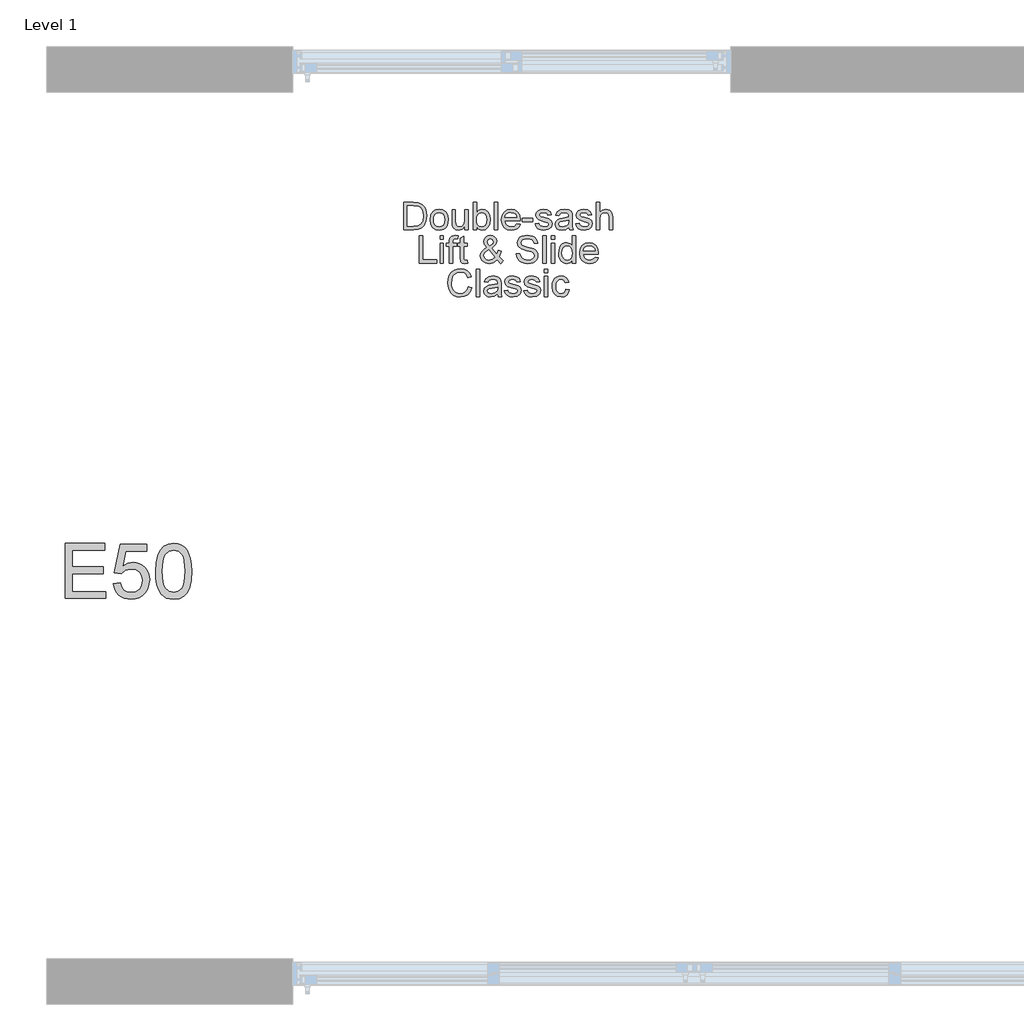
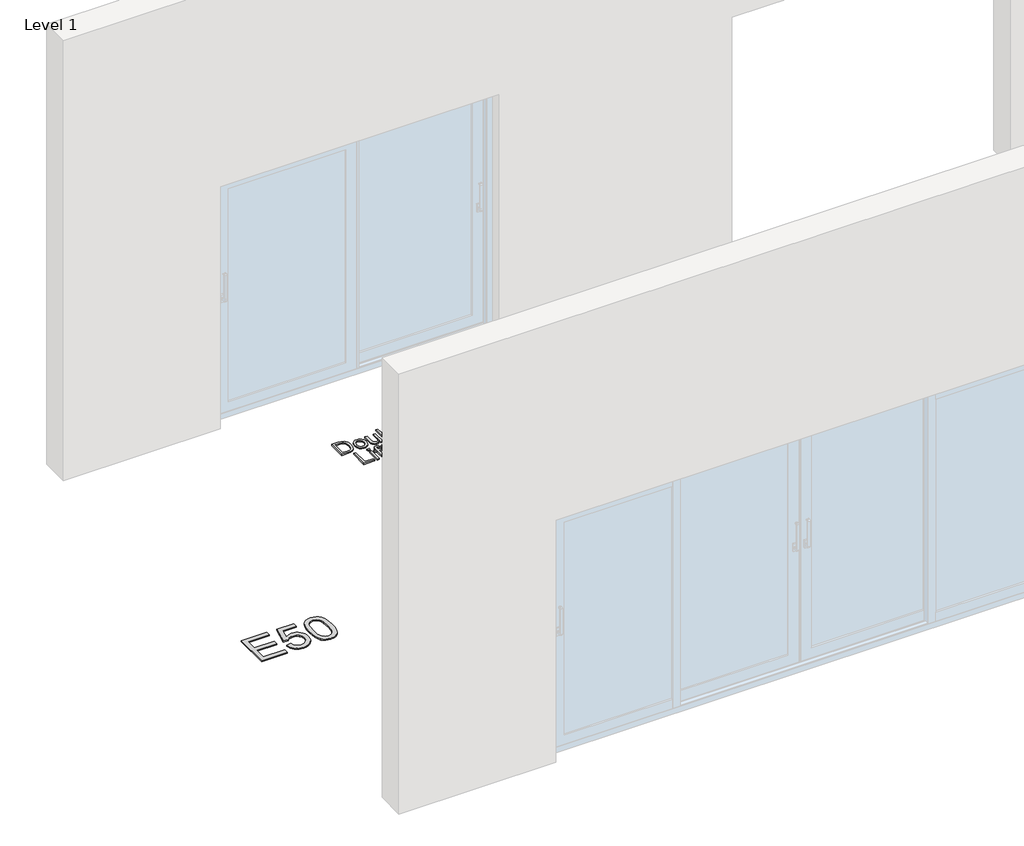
# One storey, part 3 of 17: 2 proxies.
"""IFC4 building model written with IfcOpenShell, lengths in millimetres."""

from ifc_helpers import new_model, si_unit, origin, origin_with_axes, place, context, project, spatial, polyline, outline, extrude, element, save

model = new_model("IFC4")

# Units and contexts
model_context = context("Model", 3, world=origin())
ifc_project = project(units=[si_unit("LENGTHUNIT", "METRE", prefix="MILLI")], contexts=[model_context])

# Site, building, storey
site = spatial("IfcSite", under=ifc_project)
building = spatial("IfcBuilding", under=site)
storey = spatial("IfcBuildingStorey", under=building, Name="Level 1", Elevation=0.0)

# Proxies
placement = place(None, origin())
element("IfcBuildingElementProxy", 1, Name="150mm Arial", ObjectType="150mm Arial", at=placement, inside=storey, context=model_context, shape_type="SweptSolid", body=[
    extrude(outline(polyline([(-6211.5990485, -897.6627533), (-6211.5990485, -746.9782881), (-6159.6173226, -746.9782881), (-6132.7251487, -749.1487919), (-6110.5786526, -759.9277343), (-6100.1583951, -771.4056526), (-6092.7363758, -785.679474), (-6088.2942007, -802.4732871), (-6086.8134757, -821.5111803), (-6090.8233895, -851.9166272), (-6101.1240853, -873.8607883), (-6114.8828719, -887.5276044), (-6132.8906956, -895.0875794), (-6157.115725, -897.6627533), (-6211.5990485, -897.6627533)]), holes=[polyline([(-6192.7634903, -878.8271952), (-6159.4333816, -878.8271952), (-6135.1899581, -876.1048684), (-6121.2104423, -868.4161347), (-6109.7509181, -849.7093353), (-6105.6490339, -821.2168747), (-6107.6585893, -800.6890594), (-6113.6872555, -785.5323212), (-6122.5945983, -775.1212607), (-6133.2401835, -768.8304786), (-6159.9484164, -765.8138463), (-6192.7634903, -765.8138463), (-6192.7634903, -878.8271952)])]), origin_with_axes(), (0.0, 0.0, 1.0), 10.0),
    extrude(outline(polyline([(-6067.9779176, -842.3333013), (-6063.9036245, -815.6526596), (-6051.6807452, -796.8998749), (-6036.5791893, -787.712022), (-6018.4977892, -784.6494044), (-5998.7103364, -788.3788081), (-5982.9052062, -799.5670193), (-5972.5447295, -817.3311212), (-5969.0912373, -840.7881969), (-5970.6179475, -859.8168931), (-5975.1980784, -874.3022466), (-5982.6982726, -885.150167), (-5992.9851728, -893.2665635), (-6005.2034536, -898.3295395), (-6018.4977892, -900.0171981), (-6038.5243653, -896.30159), (-6054.3111014, -885.1547655), (-6064.5612135, -867.0181831), (-6067.9779176, -842.3333013)]), holes=[polyline([(-6049.1423594, -842.2965131), (-6046.9626586, -859.343245), (-6040.4235561, -871.4879494), (-6030.5827127, -878.7582173), (-6018.4977892, -881.18164), (-6006.468048, -878.7444217), (-5996.6455987, -871.4327671), (-5990.1064962, -859.1271143), (-5987.9267954, -841.7079019), (-5990.1202918, -825.1578106), (-5996.700781, -813.1786531), (-6006.5370258, -805.9083852), (-6018.4977892, -803.4849626), (-6030.5827127, -805.8991882), (-6040.4235561, -813.141865), (-6046.9626586, -825.2589782), (-6049.1423594, -842.2965131)])]), origin_with_axes(), (0.0, 0.0, 1.0), 10.0),
    extrude(outline(polyline([(-5877.2678913, -897.6627533), (-5877.2678913, -878.6432542), (-5892.0199593, -894.6737121), (-5911.2601876, -900.0171981), (-5928.9737057, -896.2648018), (-5941.1873879, -886.8470227), (-5946.7975883, -872.9778715), (-5947.9012343, -855.4666885), (-5947.9012343, -787.0038492), (-5929.0656762, -787.0038492), (-5929.0656762, -846.6007324), (-5927.925242, -865.8041726), (-5920.4756316, -877.0797557), (-5906.4409335, -881.18164), (-5890.7139782, -876.9877852), (-5880.3213118, -865.5650493), (-5877.2678913, -844.5773814), (-5877.2678913, -787.0038492), (-5858.4323331, -787.0038492), (-5858.4323331, -897.6627533), (-5877.2678913, -897.6627533)])), origin_with_axes(), (0.0, 0.0, 1.0), 10.0),
    extrude(outline(polyline([(-5813.6978825, -897.6627533), (-5832.5334406, -897.6627533), (-5832.5334406, -746.9782881), (-5813.6978825, -746.9782881), (-5813.6978825, -802.8595632), (-5800.509313, -789.2019441), (-5784.1201701, -784.6494044), (-5765.2478237, -788.7512887), (-5750.6061203, -800.2843892), (-5741.6114055, -818.2186365), (-5738.3556499, -840.6778323), (-5741.7263687, -865.8225667), (-5751.838525, -884.5293661), (-5766.677965, -896.1452401), (-5784.2305347, -900.0171981), (-5800.9783625, -895.0232), (-5813.6978825, -880.0412058), (-5813.6978825, -897.6627533)]), holes=[polyline([(-5813.6978825, -841.5607491), (-5812.4102955, -857.2693103), (-5808.5475346, -867.9010999), (-5798.6791, -877.861505), (-5785.8492155, -881.18164), (-5774.9783025, -878.7352247), (-5765.6892821, -871.3959789), (-5759.3157266, -859.2098878), (-5757.191208, -842.2229367), (-5759.2283546, -824.9876652), (-5765.3397942, -812.9395299), (-5774.3391075, -805.8486044), (-5785.0398751, -803.4849626), (-5795.910788, -805.9313778), (-5805.1998084, -813.2706236), (-5811.573364, -825.2359855), (-5813.6978825, -841.5607491)])]), origin_with_axes(), (0.0, 0.0, 1.0), 10.0),
    extrude(outline(polyline([(-5717.165647, -897.6627533), (-5717.165647, -746.9782881), (-5698.3300888, -746.9782881), (-5698.3300888, -897.6627533), (-5717.165647, -897.6627533)])), origin_with_axes(), (0.0, 0.0, 1.0), 10.0),
    extrude(outline(polyline([(-5592.6008034, -864.7005266), (-5574.1331272, -867.0549713), (-5580.7871928, -880.9701078), (-5591.4051869, -891.3719712), (-5605.7479862, -897.8558914), (-5623.5764674, -900.0171981), (-5645.6769782, -896.2877944), (-5662.6823235, -885.0995832), (-5673.5256453, -867.1791315), (-5677.1400859, -843.2530063), (-5673.4888571, -818.5221391), (-5662.5351707, -800.0268718), (-5645.7597517, -788.4937713), (-5624.6433252, -784.6494044), (-5604.1844877, -788.4845742), (-5587.8367316, -799.9900836), (-5577.1175699, -818.4485627), (-5573.544516, -843.1426417), (-5573.6548806, -848.2194132), (-5658.3045277, -848.2194132), (-5655.0441735, -862.3184907), (-5647.470403, -872.6835659), (-5636.5397092, -879.0571214), (-5623.2085854, -881.18164), (-5604.7409092, -877.2453026), (-5592.6008034, -864.7005266)]), holes=[polyline([(-5658.3045277, -829.383855), (-5592.3800742, -829.383855), (-5594.927657, -819.4326471), (-5599.9216551, -812.3141305), (-5610.9029326, -805.6922545), (-5624.7169016, -803.4849626), (-5637.4134289, -805.2461976), (-5647.9118614, -810.5299028), (-5655.2097204, -818.765861), (-5658.3045277, -829.383855)])]), origin_with_axes(), (0.0, 0.0, 1.0), 10.0),
    extrude(outline(polyline([(-5564.126737, -852.9283027), (-5564.126737, -834.0927446), (-5505.2656177, -834.0927446), (-5505.2656177, -852.9283027), (-5564.126737, -852.9283027)])), origin_with_axes(), (0.0, 0.0, 1.0), 10.0),
    extrude(outline(polyline([(-5491.1389491, -864.7005266), (-5472.303391, -862.3460818), (-5469.3327439, -870.4026975), (-5463.5845877, -876.3255976), (-5443.6085953, -881.18164), (-5424.4051552, -876.7302678), (-5418.1511613, -866.2824192), (-5419.7238568, -861.4815591), (-5424.4419434, -857.8211333), (-5443.8293245, -852.4500561), (-5472.1930264, -843.2346122), (-5484.5722555, -832.4740638), (-5488.7845044, -817.2805374), (-5485.39999, -803.2458393), (-5476.1661519, -792.5220791), (-5464.191593, -786.9486669), (-5447.9863911, -784.6494044), (-5425.0673428, -788.3466185), (-5410.4992158, -798.3530087), (-5404.0244927, -815.2571864), (-5422.8600508, -817.6116312), (-5429.9417792, -807.2189648), (-5446.5148631, -803.4849626), (-5464.5410809, -807.0534179), (-5469.9489462, -815.367551), (-5467.704866, -820.8489927), (-5460.6783199, -825.0060593), (-5444.4547239, -829.015973), (-5416.808392, -837.8819291), (-5403.9693104, -847.9251076), (-5399.3156031, -864.2958564), (-5404.7786508, -882.3220741), (-5420.5423942, -895.4002791), (-5443.8661127, -900.0171981), (-5462.8580207, -897.791512), (-5476.7179749, -891.1144538), (-5485.9702071, -880.0595999), (-5491.1389491, -864.7005266)])), origin_with_axes(), (0.0, 0.0, 1.0), 10.0),
    extrude(outline(polyline([(-5307.4922571, -883.5360847), (-5325.7575982, -896.30159), (-5345.9359256, -900.0171981), (-5361.6766765, -897.782315), (-5373.287952, -891.0776656), (-5380.4478553, -880.8965314), (-5382.8344897, -868.2321937), (-5379.2292462, -853.3329729), (-5369.7562848, -842.5172423), (-5356.5677153, -836.3368247), (-5340.2705429, -833.5041334), (-5307.6026217, -827.0294103), (-5307.4922571, -822.8355555), (-5308.7890412, -814.4294519), (-5312.6793933, -808.9296161), (-5321.3798024, -804.846126), (-5333.5015142, -803.4849626), (-5352.5578015, -807.1086002), (-5361.6444868, -819.966076), (-5380.480045, -817.6116312), (-5372.3314588, -799.2175314), (-5355.9239218, -788.438589), (-5331.073493, -784.6494044), (-5308.2464152, -787.9971306), (-5295.3521513, -796.4032342), (-5289.576404, -809.1871335), (-5288.656699, -825.6682469), (-5288.656699, -849.10233), (-5287.7002058, -881.8254334), (-5283.9478094, -897.6627533), (-5302.7833676, -897.6627533), (-5307.4922571, -883.5360847)]), holes=[polyline([(-5307.4922571, -845.8649684), (-5337.8793099, -851.6407157), (-5354.0845118, -854.6941363), (-5361.4237576, -859.6605432), (-5363.9989316, -866.9078185), (-5358.3887312, -877.0981498), (-5341.9260119, -881.18164), (-5322.8697245, -876.6750855), (-5310.5824659, -865.7673844), (-5307.6026217, -851.1992574), (-5307.4922571, -845.8649684)])]), origin_with_axes(), (0.0, 0.0, 1.0), 10.0),
    extrude(outline(polyline([(-5269.8211408, -864.7005266), (-5250.9855827, -862.3460818), (-5248.0149356, -870.4026975), (-5242.2667794, -876.3255976), (-5222.290787, -881.18164), (-5203.0873469, -876.7302678), (-5196.833353, -866.2824192), (-5198.4060485, -861.4815591), (-5203.1241351, -857.8211333), (-5222.5115162, -852.4500561), (-5250.8752181, -843.2346122), (-5263.2544472, -832.4740638), (-5267.4666961, -817.2805374), (-5264.0821817, -803.2458393), (-5254.8483436, -792.5220791), (-5242.8737847, -786.9486669), (-5226.6685828, -784.6494044), (-5203.7495345, -788.3466185), (-5189.1814075, -798.3530087), (-5182.7066844, -815.2571864), (-5201.5422425, -817.6116312), (-5208.6239709, -807.2189648), (-5225.1970548, -803.4849626), (-5243.2232726, -807.0534179), (-5248.6311379, -815.367551), (-5246.3870577, -820.8489927), (-5239.3605116, -825.0060593), (-5223.1369156, -829.015973), (-5195.4905837, -837.8819291), (-5182.6515021, -847.9251076), (-5177.9977948, -864.2958564), (-5183.4608425, -882.3220741), (-5199.2245859, -895.4002791), (-5222.5483044, -900.0171981), (-5241.5402124, -897.791512), (-5255.4001666, -891.1144538), (-5264.6523988, -880.0595999), (-5269.8211408, -864.7005266)])), origin_with_axes(), (0.0, 0.0, 1.0), 10.0),
    extrude(outline(polyline([(-5156.8077919, -897.6627533), (-5156.8077919, -746.9782881), (-5137.9722338, -746.9782881), (-5137.9722338, -802.3813166), (-5123.2845451, -789.0823825), (-5105.193948, -784.6494044), (-5084.0407333, -789.4870527), (-5071.2016516, -802.8595632), (-5067.3388907, -827.6180215), (-5067.3388907, -897.6627533), (-5086.1744488, -897.6627533), (-5086.1744488, -829.567796), (-5087.673568, -817.7771781), (-5092.1709254, -809.7021683), (-5099.4182007, -805.039264), (-5109.1670735, -803.4849626), (-5124.5997232, -807.6788173), (-5134.9004191, -819.046371), (-5137.9722338, -838.8752105), (-5137.9722338, -897.6627533), (-5156.8077919, -897.6627533)])), origin_with_axes(), (0.0, 0.0, 1.0), 10.0),
    extrude(outline(polyline([(-6126.8390368, -1080.6249801), (-6126.8390368, -929.9405149), (-6108.0034786, -929.9405149), (-6108.0034786, -1061.789422), (-6032.661246, -1061.789422), (-6032.661246, -1080.6249801), (-6126.8390368, -1080.6249801)])), origin_with_axes(), (0.0, 0.0, 1.0), 10.0),
    extrude(outline(polyline([(-6013.8256879, -948.776073), (-6013.8256879, -929.9405149), (-5994.9901297, -929.9405149), (-5994.9901297, -948.776073), (-6013.8256879, -948.776073)])), origin_with_axes(), (0.0, 0.0, 1.0), 10.0),
    extrude(outline(polyline([(-6013.8256879, -1080.6249801), (-6013.8256879, -969.966076), (-5994.9901297, -969.966076), (-5994.9901297, -1080.6249801), (-6013.8256879, -1080.6249801)])), origin_with_axes(), (0.0, 0.0, 1.0), 10.0),
    extrude(outline(polyline([(-5962.0279029, -1080.6249801), (-5962.0279029, -988.8016341), (-5978.5090163, -988.8016341), (-5978.5090163, -969.966076), (-5962.0279029, -969.966076), (-5962.0279029, -958.8192515), (-5960.0413402, -943.1106903), (-5950.4028319, -931.8902895), (-5931.4201209, -927.5860701), (-5914.2400318, -929.6462093), (-5916.9991467, -947.3045451), (-5927.8516656, -946.4216283), (-5939.7158599, -949.5486252), (-5943.1923448, -961.2104845), (-5943.1923448, -969.966076), (-5922.0023419, -969.966076), (-5922.0023419, -988.8016341), (-5943.1923448, -988.8016341), (-5943.1923448, -1080.6249801), (-5962.0279029, -1080.6249801)])), origin_with_axes(), (0.0, 0.0, 1.0), 10.0),
    extrude(outline(polyline([(-5865.4956674, -1064.9164189), (-5863.1412226, -1081.1768031), (-5877.2311031, -1082.9794249), (-5893.0132407, -1079.8524279), (-5900.8859153, -1071.6486594), (-5903.1667837, -1050.2747155), (-5903.1667837, -988.8016341), (-5917.2934523, -988.8016341), (-5917.2934523, -969.966076), (-5903.1667837, -969.966076), (-5903.1667837, -943.0739021), (-5884.3312256, -932.0006541), (-5884.3312256, -969.966076), (-5865.4956674, -969.966076), (-5865.4956674, -988.8016341), (-5884.3312256, -988.8016341), (-5884.3312256, -1049.7228925), (-5883.3379442, -1059.4349772), (-5880.1189767, -1062.8746738), (-5873.6994359, -1064.1438667), (-5865.4956674, -1064.9164189)])), origin_with_axes(), (0.0, 0.0, 1.0), 10.0),
    extrude(outline(polyline([(-5701.3835094, -1062.0101512), (-5721.3595017, -1077.7371064), (-5744.7200084, -1082.9794249), (-5765.5053411, -1079.0982698), (-5781.5082079, -1067.4548047), (-5789.7579617, -1054.054703), (-5792.5078796, -1039.1646793), (-5790.2959891, -1025.9669127), (-5783.6603176, -1014.1119154), (-5772.6284563, -1003.6088844), (-5757.2279962, -994.4670168), (-5770.3797776, -975.4107295), (-5773.6723214, -961.2840609), (-5771.0787533, -948.5645409), (-5763.2980492, -937.6292486), (-5751.5902047, -930.0968647), (-5737.2152157, -927.5860701), (-5723.5392025, -929.9865001), (-5712.6039102, -937.1877902), (-5705.4302113, -947.7552005), (-5703.0389783, -960.2539913), (-5704.8094104, -970.7478252), (-5710.1207067, -980.4507128), (-5731.365892, -997.4836492), (-5704.1058361, -1031.4391574), (-5695.975644, -1010.5802482), (-5677.1400859, -1014.6637384), (-5690.4574141, -1045.6761906), (-5667.7223068, -1068.4848743), (-5681.8489754, -1082.9794249), (-5701.3835094, -1062.0101512)]), holes=[polyline([(-5740.8940356, -985.6010608), (-5725.4062036, -973.9208074), (-5721.8745365, -962.8291653), (-5726.5282437, -951.0017591), (-5738.1717089, -946.4216283), (-5750.0726914, -950.9649709), (-5754.8367633, -962.0566131), (-5753.2180825, -968.9544005), (-5748.3252519, -976.6247401), (-5740.8940356, -985.6010608)]), polyline([(-5714.0018618, -1048.4353055), (-5747.6262762, -1006.4599699), (-5768.3196384, -1022.2421075), (-5773.6723214, -1036.6630817), (-5771.8421085, -1045.5474319), (-5766.3514697, -1054.7628758), (-5757.5039077, -1061.798619), (-5745.6029252, -1064.1438667), (-5728.2940773, -1059.766071), (-5714.0018618, -1048.4353055)])]), origin_with_axes(), (0.0, 0.0, 1.0), 10.0),
    extrude(outline(polyline([(-5594.734519, -1028.8271952), (-5575.8989608, -1028.8271952), (-5569.8289079, -1047.6811474), (-5555.0032635, -1059.6005241), (-5532.415309, -1064.1438667), (-5512.7336222, -1060.7041701), (-5500.0232993, -1051.2496028), (-5495.8478387, -1038.6128563), (-5498.9748356, -1026.8590265), (-5511.777129, -1018.3057701), (-5539.2027318, -1011.1136771), (-5568.7252619, -1001.8246567), (-5584.7465228, -987.8083527), (-5590.0256294, -969.0831592), (-5588.3931531, -958.0512978), (-5583.495724, -947.7643976), (-5575.4621009, -939.0455943), (-5564.4210426, -932.7180239), (-5536.4987991, -927.5860701), (-5506.7003575, -932.9571472), (-5495.2776216, -939.5882202), (-5486.8347298, -948.7392848), (-5481.4912438, -959.840124), (-5479.3667253, -972.3205207), (-5498.2022834, -972.3205207), (-5501.6603742, -961.0817258), (-5508.8708613, -952.9699278), (-5520.1372474, -948.0587031), (-5535.7630351, -946.4216283), (-5551.7567049, -948.040309), (-5562.7287854, -952.8963514), (-5569.0747498, -960.0424591), (-5571.1900713, -968.5313362), (-5569.6909521, -975.7694144), (-5565.1935947, -981.591147), (-5534.43866, -992.1125721), (-5501.1085512, -1001.5671393), (-5490.3709955, -1008.4005474), (-5482.8799983, -1016.8342421), (-5478.47921, -1026.7762531), (-5477.0122805, -1038.1346097), (-5478.6999392, -1049.7458851), (-5483.7629151, -1060.6673819), (-5491.9942748, -1070.0667668), (-5503.1870845, -1077.1117071), (-5516.646967, -1081.5124954), (-5531.679545, -1082.9794249), (-5550.1334256, -1081.3975323), (-5565.3223534, -1076.6518546), (-5577.4210726, -1068.7239976), (-5586.6043269, -1057.5955672), (-5592.4996358, -1044.0391157), (-5594.734519, -1028.8271952)])), origin_with_axes(), (0.0, 0.0, 1.0), 10.0),
    extrude(outline(polyline([(-5451.113388, -1080.6249801), (-5451.113388, -929.9405149), (-5432.2778299, -929.9405149), (-5432.2778299, -1080.6249801), (-5451.113388, -1080.6249801)])), origin_with_axes(), (0.0, 0.0, 1.0), 10.0),
    extrude(outline(polyline([(-5404.0244927, -948.776073), (-5404.0244927, -929.9405149), (-5385.1889345, -929.9405149), (-5385.1889345, -948.776073), (-5404.0244927, -948.776073)])), origin_with_axes(), (0.0, 0.0, 1.0), 10.0),
    extrude(outline(polyline([(-5404.0244927, -1080.6249801), (-5404.0244927, -969.966076), (-5385.1889345, -969.966076), (-5385.1889345, -1080.6249801), (-5404.0244927, -1080.6249801)])), origin_with_axes(), (0.0, 0.0, 1.0), 10.0),
    extrude(outline(polyline([(-5288.656699, -1080.6249801), (-5288.656699, -1062.8562797), (-5301.1187016, -1077.9486386), (-5318.344776, -1082.9794249), (-5330.52167, -1081.158409), (-5341.6684945, -1075.6953614), (-5351.1046677, -1066.9719596), (-5358.1496079, -1055.3698811), (-5362.5366007, -1041.3581756), (-5363.9989316, -1025.4058926), (-5358.6094604, -995.42351), (-5351.8772198, -983.5317245), (-5342.4594408, -974.7853301), (-5331.0688945, -969.4050559), (-5318.4183524, -967.6116312), (-5301.0543222, -972.743585), (-5288.656699, -986.0793073), (-5288.656699, -929.9405149), (-5269.8211408, -929.9405149), (-5269.8211408, -1080.6249801), (-5288.656699, -1080.6249801)]), holes=[polyline([(-5345.1633734, -1025.3323162), (-5343.0388549, -1042.3698511), (-5336.6652993, -1054.4869644), (-5327.4038701, -1061.7296411), (-5316.6157306, -1064.1438667), (-5305.8321896, -1061.8400057), (-5296.8052852, -1054.9284227), (-5290.6938455, -1043.2803591), (-5288.656699, -1026.767056), (-5290.7306337, -1008.7132471), (-5296.952438, -996.1960622), (-5306.2092687, -988.8844076), (-5317.3882828, -986.4471893), (-5328.2867869, -988.7878385), (-5337.2171223, -995.8097861), (-5343.1768107, -1007.871717), (-5345.1633734, -1025.3323162)])]), origin_with_axes(), (0.0, 0.0, 1.0), 10.0),
    extrude(outline(polyline([(-5164.0918554, -1047.6627533), (-5145.6241792, -1050.0171981), (-5152.2782448, -1063.9323346), (-5162.8962389, -1074.334198), (-5177.2390382, -1080.8181182), (-5195.0675194, -1082.9794249), (-5217.1680303, -1079.2500212), (-5234.1733755, -1068.06181), (-5245.0166973, -1050.1413583), (-5248.6311379, -1026.215233), (-5244.9799091, -1001.4843659), (-5234.0262227, -982.9890986), (-5217.2508037, -971.455998), (-5196.1343772, -967.6116312), (-5175.6755397, -971.446801), (-5159.3277836, -982.9523104), (-5148.6086219, -1001.4107895), (-5145.0355681, -1026.1048684), (-5145.1459327, -1031.18164), (-5229.7955797, -1031.18164), (-5226.5352256, -1045.2807174), (-5218.961455, -1055.6457926), (-5208.0307612, -1062.0193482), (-5194.6996374, -1064.1438667), (-5176.2319612, -1060.2075294), (-5164.0918554, -1047.6627533)]), holes=[polyline([(-5229.7955797, -1012.3460818), (-5163.8711262, -1012.3460818), (-5166.418709, -1002.3948738), (-5171.4127071, -995.2763572), (-5182.3939847, -988.6544813), (-5196.2079536, -986.4471893), (-5208.9044809, -988.2084244), (-5219.4029134, -993.4921296), (-5226.7007725, -1001.7280877), (-5229.7955797, -1012.3460818)])]), origin_with_axes(), (0.0, 0.0, 1.0), 10.0),
    extrude(outline(polyline([(-5858.4323331, -1210.0235884), (-5839.596775, -1214.8796307), (-5848.2879871, -1236.8283903), (-5861.9272121, -1252.8634467), (-5879.8430652, -1262.6721004), (-5901.3641619, -1265.9416516), (-5923.2117539, -1263.4676452), (-5940.5619885, -1256.045626), (-5953.8609227, -1243.9331113), (-5963.5546132, -1227.3876186), (-5969.4729148, -1207.9358581), (-5971.445682, -1187.1045401), (-5969.2153974, -1165.1327879), (-5962.5245436, -1146.159274), (-5951.7226086, -1130.7864051), (-5937.1590801, -1119.6165881), (-5919.8870204, -1112.8153697), (-5900.9594917, -1110.5482969), (-5880.3075162, -1113.4821558), (-5863.2331931, -1122.2837325), (-5850.2699513, -1136.4104011), (-5841.9512197, -1155.3195357), (-5860.7867779, -1159.807696), (-5867.3166833, -1146.071902), (-5876.2378217, -1136.6495244), (-5887.6605576, -1131.2002724), (-5901.6952557, -1129.383855), (-5917.8728665, -1131.398009), (-5931.1626036, -1137.4404707), (-5941.2471687, -1146.8766439), (-5947.8092638, -1159.071932), (-5952.6101239, -1187.0677519), (-5951.1891797, -1204.4685703), (-5946.926347, -1219.5149439), (-5939.6606776, -1231.6320571), (-5929.2312231, -1240.2450943), (-5916.7278338, -1245.3908437), (-5903.2403601, -1247.1060935), (-5887.5180033, -1244.7700428), (-5874.4168058, -1237.7618908), (-5864.5253786, -1226.1552139), (-5858.4323331, -1210.0235884)])), origin_with_axes(), (0.0, 0.0, 1.0), 10.0),
    extrude(outline(polyline([(-5816.0523273, -1263.5872069), (-5816.0523273, -1112.9027417), (-5797.2167691, -1112.9027417), (-5797.2167691, -1263.5872069), (-5816.0523273, -1263.5872069)])), origin_with_axes(), (0.0, 0.0, 1.0), 10.0),
    extrude(outline(polyline([(-5698.3300888, -1249.4605383), (-5716.5954299, -1262.2260435), (-5736.7737573, -1265.9416516), (-5752.5145082, -1263.7067685), (-5764.1257836, -1257.0021192), (-5771.285687, -1246.8209849), (-5773.6723214, -1234.1566473), (-5770.0670779, -1219.2574265), (-5760.5941165, -1208.4416958), (-5747.405547, -1202.2612783), (-5731.1083746, -1199.4285869), (-5698.4404534, -1192.9538638), (-5698.3300888, -1188.7600091), (-5699.6268728, -1180.3539055), (-5703.5172249, -1174.8540696), (-5712.2176341, -1170.7705795), (-5724.3393459, -1169.4094161), (-5743.3956332, -1173.0330538), (-5752.4823185, -1185.8905295), (-5771.3178766, -1183.5360847), (-5763.1692905, -1165.141985), (-5746.7617535, -1154.3630425), (-5721.9113247, -1150.573858), (-5699.0842469, -1153.9215841), (-5686.189983, -1162.3276877), (-5680.4142356, -1175.111587), (-5679.4945307, -1191.5927004), (-5679.4945307, -1215.0267835), (-5678.5380375, -1247.749887), (-5674.7856411, -1263.5872069), (-5693.6211993, -1263.5872069), (-5698.3300888, -1249.4605383)]), holes=[polyline([(-5698.3300888, -1211.789422), (-5728.7171416, -1217.5651693), (-5744.9223435, -1220.6185898), (-5752.2615893, -1225.5849968), (-5754.8367633, -1232.8322721), (-5749.2265628, -1243.0226033), (-5732.7638436, -1247.1060935), (-5713.7075562, -1242.5995391), (-5701.4202976, -1231.6918379), (-5698.4404534, -1217.1237109), (-5698.3300888, -1211.789422)])]), origin_with_axes(), (0.0, 0.0, 1.0), 10.0),
    extrude(outline(polyline([(-5660.6589725, -1230.6249801), (-5641.8234143, -1228.2705353), (-5638.8527672, -1236.327151), (-5633.1046111, -1242.2500512), (-5613.1286187, -1247.1060935), (-5593.9251786, -1242.6547214), (-5587.6711847, -1232.2068727), (-5589.2438802, -1227.4060127), (-5593.9619668, -1223.7455868), (-5613.3493479, -1218.3745097), (-5641.7130497, -1209.1590657), (-5654.0922789, -1198.3985173), (-5658.3045277, -1183.2049909), (-5654.9200134, -1169.1702928), (-5645.6861753, -1158.4465327), (-5633.7116164, -1152.8731204), (-5617.5064145, -1150.573858), (-5594.5873662, -1154.271072), (-5580.0192392, -1164.2774623), (-5573.544516, -1181.18164), (-5592.3800742, -1183.5360847), (-5599.4618026, -1173.1434184), (-5616.0348865, -1169.4094161), (-5634.0611042, -1172.9778715), (-5639.4689696, -1181.2920046), (-5637.2248894, -1186.7734463), (-5630.1983433, -1190.9305128), (-5613.9747473, -1194.9404266), (-5586.3284154, -1203.8063827), (-5573.4893337, -1213.8495611), (-5568.8356265, -1230.2203099), (-5574.2986741, -1248.2465277), (-5590.0624176, -1261.3247326), (-5613.3861361, -1265.9416516), (-5632.3780441, -1263.7159656), (-5646.2379983, -1257.0389074), (-5655.4902305, -1245.9840534), (-5660.6589725, -1230.6249801)])), origin_with_axes(), (0.0, 0.0, 1.0), 10.0),
    extrude(outline(polyline([(-5554.7089579, -1230.6249801), (-5535.8733997, -1228.2705353), (-5532.9027526, -1236.327151), (-5527.1545964, -1242.2500512), (-5507.1786041, -1247.1060935), (-5487.975164, -1242.6547214), (-5481.72117, -1232.2068727), (-5483.2938656, -1227.4060127), (-5488.0119522, -1223.7455868), (-5507.3993333, -1218.3745097), (-5535.7630351, -1209.1590657), (-5548.1422643, -1198.3985173), (-5552.3545131, -1183.2049909), (-5548.9699988, -1169.1702928), (-5539.7361607, -1158.4465327), (-5527.7616017, -1152.8731204), (-5511.5563999, -1150.573858), (-5488.6373516, -1154.271072), (-5474.0692245, -1164.2774623), (-5467.5945014, -1181.18164), (-5486.4300596, -1183.5360847), (-5493.511788, -1173.1434184), (-5510.0848719, -1169.4094161), (-5528.1110896, -1172.9778715), (-5533.518955, -1181.2920046), (-5531.2748748, -1186.7734463), (-5524.2483287, -1190.9305128), (-5508.0247327, -1194.9404266), (-5480.3784008, -1203.8063827), (-5467.5393191, -1213.8495611), (-5462.8856119, -1230.2203099), (-5468.3486595, -1248.2465277), (-5484.112403, -1261.3247326), (-5507.4361215, -1265.9416516), (-5526.4280295, -1263.7159656), (-5540.2879837, -1257.0389074), (-5549.5402159, -1245.9840534), (-5554.7089579, -1230.6249801)])), origin_with_axes(), (0.0, 0.0, 1.0), 10.0),
    extrude(outline(polyline([(-5441.695609, -1131.7382998), (-5441.695609, -1112.9027417), (-5422.8600508, -1112.9027417), (-5422.8600508, -1131.7382998), (-5441.695609, -1131.7382998)])), origin_with_axes(), (0.0, 0.0, 1.0), 10.0),
    extrude(outline(polyline([(-5441.695609, -1263.5872069), (-5441.695609, -1152.9283027), (-5422.8600508, -1152.9283027), (-5422.8600508, -1263.5872069), (-5441.695609, -1263.5872069)])), origin_with_axes(), (0.0, 0.0, 1.0), 10.0),
    extrude(outline(polyline([(-5323.9733705, -1223.5616458), (-5305.1378124, -1225.9160906), (-5310.3893278, -1242.6685169), (-5320.2577624, -1255.3282561), (-5333.8142139, -1263.2883028), (-5350.1297804, -1265.9416516), (-5370.1655535, -1262.2398391), (-5385.832728, -1251.1344013), (-5395.9448843, -1233.1127821), (-5399.3156031, -1208.662425), (-5397.8762648, -1191.9008016), (-5393.5582499, -1177.3740613), (-5386.2925805, -1165.6432242), (-5376.0102787, -1157.2693103), (-5363.7092245, -1152.247721), (-5350.3872978, -1150.573858), (-5334.4718029, -1152.8731204), (-5321.7476844, -1159.7709078), (-5312.6196124, -1170.8993382), (-5307.4922571, -1185.8905295), (-5326.3278153, -1188.2449743), (-5335.0650127, -1174.1366998), (-5350.240145, -1169.4094161), (-5362.4124405, -1171.7362697), (-5372.0739414, -1178.7168306), (-5378.3785191, -1190.7281777), (-5380.480045, -1208.1473902), (-5378.4245043, -1225.8011274), (-5372.2578824, -1237.8538613), (-5362.7711254, -1244.7930354), (-5350.7551798, -1247.1060935), (-5341.0017084, -1245.6621567), (-5333.0048735, -1241.3303462), (-5327.1877394, -1234.0002974), (-5323.9733705, -1223.5616458)])), origin_with_axes(), (0.0, 0.0, 1.0), 10.0),
])
element("IfcBuildingElementProxy", 2, Name="300mm Arial", ObjectType="300mm Arial", at=placement, inside=storey, context=model_context, shape_type="SweptSolid", body=[
    extrude(outline(polyline([(-8067.9216394, -2918.7131538), (-8067.9216394, -2617.3442234), (-7851.3127207, -2617.3442234), (-7851.3127207, -2655.0153397), (-8030.2505231, -2655.0153397), (-8030.2505231, -2744.4842409), (-7860.7304997, -2744.4842409), (-7860.7304997, -2782.1553572), (-8030.2505231, -2782.1553572), (-8030.2505231, -2881.0420375), (-7846.6038311, -2881.0420375), (-7846.6038311, -2918.7131538), (-8067.9216394, -2918.7131538)])), origin_with_axes(), (0.0, 0.0, 1.0), 10.0),
    extrude(outline(polyline([(-7804.2238253, -2838.6620317), (-7766.552709, -2833.9531422), (-7759.6365275, -2856.5686878), (-7747.569998, -2872.7646926), (-7730.408303, -2882.5043685), (-7708.2066245, -2885.7509271), (-7681.2040861, -2881.2351756), (-7660.9705764, -2867.6879211), (-7648.3338298, -2846.6726621), (-7644.121581, -2819.7528971), (-7648.0671154, -2794.4058277), (-7659.9037186, -2775.0184465), (-7679.7233611, -2762.7127938), (-7707.6180134, -2758.6109095), (-7725.8925515, -2760.2479844), (-7740.6906047, -2765.1592091), (-7761.8438194, -2782.1553572), (-7799.5149357, -2777.4464677), (-7766.552709, -2622.0531129), (-7620.5771333, -2622.0531129), (-7620.5771333, -2659.7242292), (-7736.0920798, -2659.7242292), (-7752.2053112, -2742.7184073), (-7725.2947432, -2726.3844468), (-7697.0965883, -2720.9397932), (-7678.750773, -2722.6274519), (-7661.8994784, -2727.6904278), (-7646.5427044, -2736.1287211), (-7632.6804509, -2747.9423317), (-7621.2048319, -2762.4092911), (-7613.0079612, -2778.8076311), (-7608.0898388, -2797.1373515), (-7606.4504647, -2817.3984524), (-7612.3549707, -2855.0695687), (-7619.7356032, -2871.8633818), (-7630.0684888, -2887.2960315), (-7645.7218677, -2903.1011617), (-7663.9872087, -2914.3905404), (-7684.8645119, -2921.1641676), (-7708.3537773, -2923.4220434), (-7745.353509, -2917.6187049), (-7761.0321798, -2910.3645318), (-7774.8300539, -2900.2086895), (-7786.3102714, -2887.6570157), (-7795.0359725, -2873.2153481), (-7804.2238253, -2838.6620317)])), origin_with_axes(), (0.0, 0.0, 1.0), 10.0),
    extrude(outline(polyline([(-7573.4882379, -2770.4567098), (-7570.7199259, -2722.2181832), (-7562.4149899, -2683.7469235), (-7548.6562032, -2654.4543197), (-7529.5263395, -2633.7517604), (-7504.8874429, -2621.4461076), (-7474.6015576, -2617.3442234), (-7451.3882037, -2619.7722446), (-7430.602871, -2627.0563081), (-7413.2204467, -2638.9113054), (-7400.2158182, -2655.0521279), (-7390.3933689, -2675.3408199), (-7382.5574824, -2699.6394257), (-7377.4255286, -2730.4955281), (-7375.7148773, -2770.4567098), (-7378.4555982, -2818.4193249), (-7386.6777608, -2856.7986141), (-7400.3537739, -2886.1188091), (-7419.4560465, -2906.9041418), (-7444.1501255, -2919.292568), (-7474.6015576, -2923.4220434), (-7495.3501021, -2921.6286187), (-7513.7442019, -2916.2483445), (-7529.7838569, -2907.2812208), (-7543.4690671, -2894.7272478), (-7556.6024543, -2872.0335272), (-7565.9834452, -2843.7571973), (-7571.6120397, -2809.8982582), (-7573.4882379, -2770.4567098)]), holes=[polyline([(-7535.8171216, -2770.3831334), (-7531.4025377, -2829.6397258), (-7525.8843077, -2849.9077244), (-7518.1587858, -2863.9355248), (-7498.4403109, -2880.2970765), (-7474.6015576, -2885.7509271), (-7450.7628043, -2880.2786824), (-7431.0443294, -2863.8619484), (-7423.3188075, -2849.8111554), (-7417.8005776, -2829.5477553), (-7413.3859936, -2770.3831334), (-7417.6534248, -2712.4601132), (-7422.9877137, -2692.2587932), (-7430.4557182, -2677.8975998), (-7450.1374049, -2660.7359047), (-7475.043016, -2655.0153397), (-7498.6242519, -2660.055323), (-7517.5701746, -2675.175273), (-7525.5532139, -2690.8102578), (-7531.2553849, -2711.8898962), (-7535.8171216, -2770.3831334)])]), origin_with_axes(), (0.0, 0.0, 1.0), 10.0),
])

save(model, "model.ifc")
